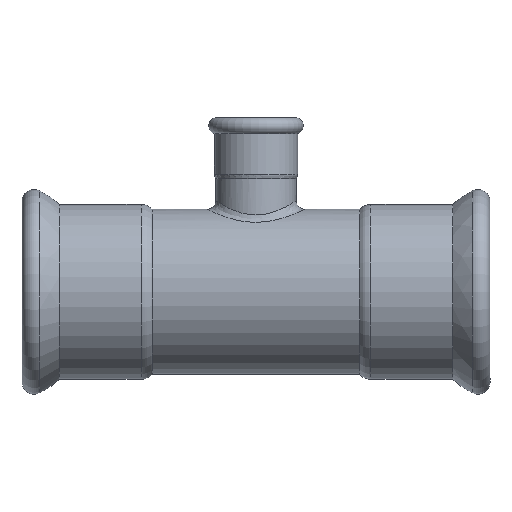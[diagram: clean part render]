
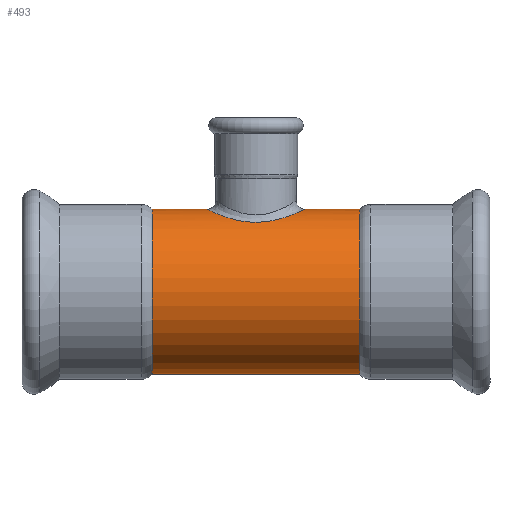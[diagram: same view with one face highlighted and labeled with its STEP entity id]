
A CAD part, front view. The second image highlights one B-rep face of the part: STEP entity #493.
In plain terms, the highlighted cylindrical face has radius 38.05 mm (diameter 76.1 mm), a full revolution.
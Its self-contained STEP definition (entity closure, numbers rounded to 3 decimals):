
#20=B_SPLINE_CURVE_WITH_KNOTS($,3,(#1240,#1241,#1242,#1243,#1244,#1245,
#1246,#1247,#1248,#1249,#1250,#1251,#1252,#1253,#1254,#1255,#1256,#1257,
#1258,#1259,#1260,#1261,#1262,#1263,#1264,#1265),.UNSPECIFIED.,.T.,.F.,
(4,1,1,1,1,1,1,1,1,1,1,1,1,1,1,1,1,1,1,1,3,4),(-11.364,-10.958,
-10.552,-9.74,-8.929,-8.117,
-7.711,-7.305,-6.494,-5.952,
-5.411,-4.87,-4.329,-3.788,
-3.247,-2.435,-2.029,-1.623,
-0.812,-0.406,0.,0.),
 .UNSPECIFIED.);
#60=FACE_BOUND($,#182,.T.);
#61=FACE_BOUND($,#183,.T.);
#93=CYLINDRICAL_SURFACE($,#565,38.05);
#122=FACE_OUTER_BOUND($,#181,.T.);
#181=EDGE_LOOP($,(#424));
#182=EDGE_LOOP($,(#425));
#183=EDGE_LOOP($,(#426));
#255=CIRCLE($,#566,38.05);
#256=CIRCLE($,#567,38.05);
#300=VERTEX_POINT($,#1211);
#302=VERTEX_POINT($,#1268);
#303=VERTEX_POINT($,#1270);
#352=EDGE_CURVE($,#300,#300,#20,.T.);
#353=EDGE_CURVE($,#302,#302,#255,.T.);
#354=EDGE_CURVE($,#303,#303,#256,.T.);
#424=ORIENTED_EDGE($,*,*,#353,.F.);
#425=ORIENTED_EDGE($,*,*,#354,.T.);
#426=ORIENTED_EDGE($,*,*,#352,.F.);
#493=ADVANCED_FACE($,(#122,#60,#61),#93,.T.);
#565=AXIS2_PLACEMENT_3D($,#1267,#699,#700);
#566=AXIS2_PLACEMENT_3D($,#1269,#701,#702);
#567=AXIS2_PLACEMENT_3D($,#1271,#703,#704);
#699=DIRECTION('center_axis',(1.,0.,0.));
#700=DIRECTION('ref_axis',(0.,1.,0.));
#701=DIRECTION('center_axis',(1.,0.,0.));
#702=DIRECTION('ref_axis',(0.,1.,0.));
#703=DIRECTION('center_axis',(1.,0.,0.));
#704=DIRECTION('ref_axis',(0.,1.,0.));
#1211=CARTESIAN_POINT('',(-108.,-20.36,32.145));
#1240=CARTESIAN_POINT('Ctrl Pts',(-108.,-20.359,32.145));
#1241=CARTESIAN_POINT('Ctrl Pts',(-106.289,-20.359,32.145));
#1242=CARTESIAN_POINT('Ctrl Pts',(-102.867,-20.007,32.373));
#1243=CARTESIAN_POINT('Ctrl Pts',(-96.458,-17.929,33.613));
#1244=CARTESIAN_POINT('Ctrl Pts',(-89.908,-13.2,35.96));
#1245=CARTESIAN_POINT('Ctrl Pts',(-85.325,-4.818,38.13));
#1246=CARTESIAN_POINT('Ctrl Pts',(-85.306,3.185,38.139));
#1247=CARTESIAN_POINT('Ctrl Pts',(-87.615,9.008,37.046));
#1248=CARTESIAN_POINT('Ctrl Pts',(-91.208,14.126,35.495));
#1249=CARTESIAN_POINT('Ctrl Pts',(-96.895,18.253,33.454));
#1250=CARTESIAN_POINT('Ctrl Pts',(-104.495,20.431,32.102));
#1251=CARTESIAN_POINT('Ctrl Pts',(-111.46,20.443,32.093));
#1252=CARTESIAN_POINT('Ctrl Pts',(-118.004,18.573,33.256));
#1253=CARTESIAN_POINT('Ctrl Pts',(-123.511,15.148,35.));
#1254=CARTESIAN_POINT('Ctrl Pts',(-127.696,10.449,36.722));
#1255=CARTESIAN_POINT('Ctrl Pts',(-130.679,3.75,38.131));
#1256=CARTESIAN_POINT('Ctrl Pts',(-130.696,-3.172,38.14));
#1257=CARTESIAN_POINT('Ctrl Pts',(-128.384,-9.012,37.046));
#1258=CARTESIAN_POINT('Ctrl Pts',(-124.8,-14.118,35.498));
#1259=CARTESIAN_POINT('Ctrl Pts',(-119.544,-17.934,33.613));
#1260=CARTESIAN_POINT('Ctrl Pts',(-113.132,-20.005,32.373));
#1261=CARTESIAN_POINT('Ctrl Pts',(-109.711,-20.359,32.145));
#1262=CARTESIAN_POINT('Ctrl Pts',(-108.001,-20.359,32.145));
#1263=CARTESIAN_POINT('Ctrl Pts',(-108.,-20.359,32.145));
#1264=CARTESIAN_POINT('Ctrl Pts',(-108.,-20.359,32.145));
#1265=CARTESIAN_POINT('Ctrl Pts',(-108.,-20.359,32.145));
#1267=CARTESIAN_POINT('Origin',(-67.344,0.,0.));
#1268=CARTESIAN_POINT('',(-60.187,38.05,0.));
#1269=CARTESIAN_POINT('Origin',(-60.187,0.,0.));
#1270=CARTESIAN_POINT('',(-155.813,38.05,0.));
#1271=CARTESIAN_POINT('Origin',(-155.813,0.,0.));
